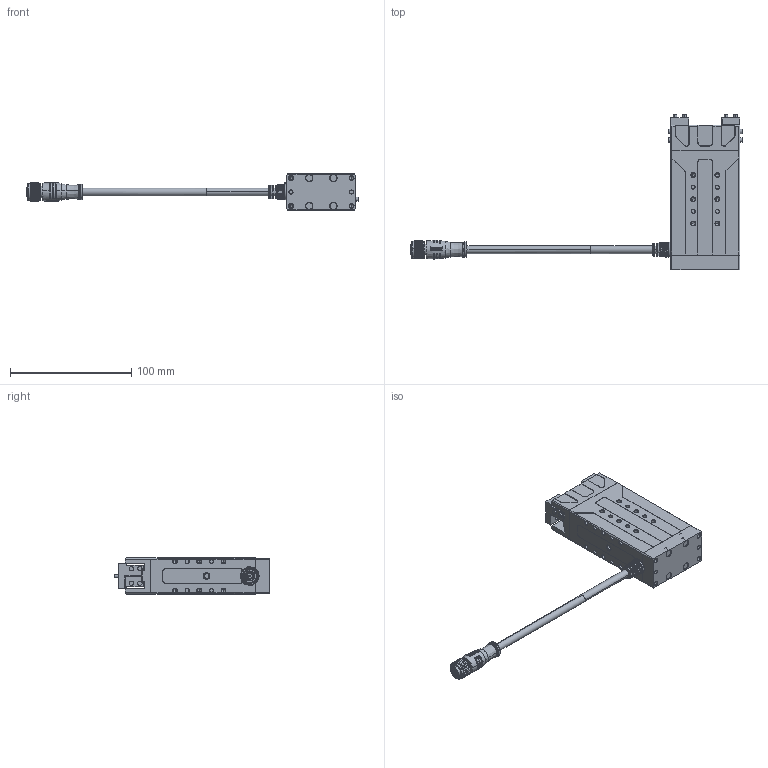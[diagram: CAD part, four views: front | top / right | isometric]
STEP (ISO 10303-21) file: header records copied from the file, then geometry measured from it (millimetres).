
FILE_DESCRIPTION (( 'STEP AP214' ), '1' );
FILE_NAME ('PGE-100-26-O-S.STEP', '2023-07-19T03:29:58', ( '' ), ( '' ), 'SwSTEP 2.0', 'SolidWorks 2020', '' );
FILE_SCHEMA (( 'AUTOMOTIVE_DESIGN' ));
Length unit declared in the file: millimetre
Products named in the file (3): PGE-100-26-O-S; PGE-100-26-O-S_褲; PGE-100-26-O-S_價釱
Assembly tree (3 placements, depth 2):
  PGE-100-26-O-S
    PGE-100-26-O-S_褲
    PGE-100-26-O-S_價釱  x2
Bounding box: 273.8 x 128 x 30 mm (x, y, z)
Volume: 14976 mm3; surface area: 51277.3 mm2
Topology: 2 solids, 20 shells, 1417 faces, 3521 edges, 2174 vertices
Faces by surface type: plane 494, cylinder 349, cone 306, bspline 241, torus 27
Full cylindrical faces by diameter (mm): 11.1 x3
Entity records: 69567 total; most frequent: CARTESIAN_POINT 28669, ORIENTED_EDGE 6388, DIRECTION 4117, EDGE_CURVE 3205, VERTEX_POINT 2035, AXIS2_PLACEMENT_3D 1641, B_SPLINE_CURVE_WITH_KNOTS 1588, EDGE_LOOP 1447
